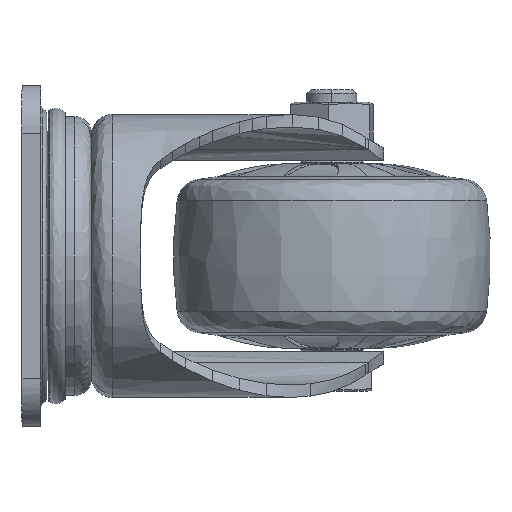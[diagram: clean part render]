
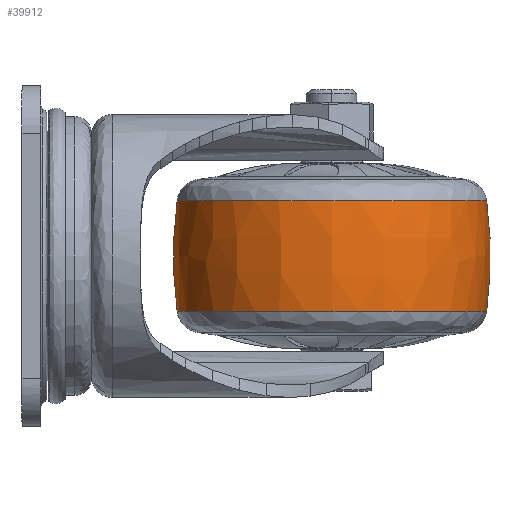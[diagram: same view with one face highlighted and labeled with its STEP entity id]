
A CAD part, left-side view. The second image highlights one B-rep face of the part: STEP entity #39912.
In plain terms, the highlighted free-form (B-spline) face has degree [3, 3] with [4, 4] control points.
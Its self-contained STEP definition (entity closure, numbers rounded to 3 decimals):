
#2724 = DIRECTION ( 'NONE',  ( 0., 0., 1. ) ) ;
#3313 = VERTEX_POINT ( 'NONE', #59676 ) ;
#4360 = ORIENTED_EDGE ( 'NONE', *, *, #34379, .F. ) ;
#4782 = CIRCLE ( 'NONE', #11309, 100. ) ;
#5583 = AXIS2_PLACEMENT_3D ( 'NONE', #80713, #19340, #24666 ) ;
#5904 = CARTESIAN_POINT ( 'NONE',  ( -37.429, -37.286, -13.279 ) ) ;
#9093 = CARTESIAN_POINT ( 'NONE',  ( 37., -111.714, -13.279 ) ) ;
#9339 = DIRECTION ( 'NONE',  ( -1., 0., 0. ) ) ;
#10994 = VERTEX_POINT ( 'NONE', #69249 ) ;
#11309 = AXIS2_PLACEMENT_3D ( 'NONE', #58387, #9339, #28124 ) ;
#12331 = VERTEX_POINT ( 'NONE', #9093 ) ;
#12422 = CARTESIAN_POINT ( 'NONE',  ( 37., -111.714, -13.279 ) ) ;
#15730 = CARTESIAN_POINT ( 'NONE',  ( 37., -37.286, 13.279 ) ) ;
#16943 = VERTEX_POINT ( 'NONE', #49257 ) ;
#18519 = CARTESIAN_POINT ( 'NONE',  ( -39.794, -112.897, -4.452 ) ) ;
#19340 = DIRECTION ( 'NONE',  ( 1., 0., 0. ) ) ;
#20145 =( BOUNDED_SURFACE ( )  B_SPLINE_SURFACE ( 3, 3, ( 
 ( #46799, #79084, #71711, #15730 ),
 ( #59467, #47601, #53328, #72521 ),
 ( #41467, #18519, #24259, #73320 ),
 ( #12422, #54523, #5904, #35750 ) ),
 .UNSPECIFIED., .F., .F., .F. ) 
 B_SPLINE_SURFACE_WITH_KNOTS ( ( 4, 4 ),
 ( 4, 4 ),
 ( 0., 1. ),
 ( 0., 1. ),
 .UNSPECIFIED. ) 
 GEOMETRIC_REPRESENTATION_ITEM ( )  RATIONAL_B_SPLINE_SURFACE ( (
 ( 1., 0.333, 0.333, 1.),
 ( 0.994, 0.331, 0.331, 0.994),
 ( 0.994, 0.331, 0.331, 0.994),
 ( 1., 0.333, 0.333, 1.) ) ) 
 REPRESENTATION_ITEM ( '' )  SURFACE ( )  );
#21485 = DIRECTION ( 'NONE',  ( 0., 1., 0. ) ) ;
#21615 = EDGE_CURVE ( 'NONE', #12331, #16943, #26790, .T. ) ;
#22613 = EDGE_CURVE ( 'NONE', #3313, #10994, #73175, .T. ) ;
#24259 = CARTESIAN_POINT ( 'NONE',  ( -39.794, -36.103, -4.452 ) ) ;
#24666 = DIRECTION ( 'NONE',  ( 0., 0.991, -0.133 ) ) ;
#24769 = CARTESIAN_POINT ( 'NONE',  ( 37., -74.5, -13.279 ) ) ;
#26790 = CIRCLE ( 'NONE', #33147, 37.214 ) ;
#28124 = DIRECTION ( 'NONE',  ( 0., -0.991, -0.133 ) ) ;
#28460 = EDGE_LOOP ( 'NONE', ( #73008, #44382, #4360, #67769 ) ) ;
#32158 = CARTESIAN_POINT ( 'NONE',  ( 37., -74.5, 13.279 ) ) ;
#33147 = AXIS2_PLACEMENT_3D ( 'NONE', #24769, #74235, #68517 ) ;
#34379 = EDGE_CURVE ( 'NONE', #16943, #3313, #40829, .T. ) ;
#35750 = CARTESIAN_POINT ( 'NONE',  ( 37., -37.286, -13.279 ) ) ;
#39912 = ADVANCED_FACE ( 'NONE', ( #53724 ), #20145, .F. ) ;
#40829 = CIRCLE ( 'NONE', #5583, 100. ) ;
#41467 = CARTESIAN_POINT ( 'NONE',  ( 37., -112.897, -4.452 ) ) ;
#44382 = ORIENTED_EDGE ( 'NONE', *, *, #22613, .F. ) ;
#46799 = CARTESIAN_POINT ( 'NONE',  ( 37., -111.714, 13.279 ) ) ;
#47601 = CARTESIAN_POINT ( 'NONE',  ( -39.794, -112.897, 4.452 ) ) ;
#49257 = CARTESIAN_POINT ( 'NONE',  ( 37., -37.286, -13.279 ) ) ;
#49650 = AXIS2_PLACEMENT_3D ( 'NONE', #32158, #2724, #21485 ) ;
#53328 = CARTESIAN_POINT ( 'NONE',  ( -39.794, -36.103, 4.452 ) ) ;
#53724 = FACE_OUTER_BOUND ( 'NONE', #28460, .T. ) ;
#54523 = CARTESIAN_POINT ( 'NONE',  ( -37.429, -111.714, -13.279 ) ) ;
#58387 = CARTESIAN_POINT ( 'NONE',  ( 37., -12.6, 0. ) ) ;
#59467 = CARTESIAN_POINT ( 'NONE',  ( 37., -112.897, 4.452 ) ) ;
#59676 = CARTESIAN_POINT ( 'NONE',  ( 37., -37.286, 13.279 ) ) ;
#67769 = ORIENTED_EDGE ( 'NONE', *, *, #21615, .F. ) ;
#68517 = DIRECTION ( 'NONE',  ( 0., -1., 0. ) ) ;
#69249 = CARTESIAN_POINT ( 'NONE',  ( 37., -111.714, 13.279 ) ) ;
#71711 = CARTESIAN_POINT ( 'NONE',  ( -37.429, -37.286, 13.279 ) ) ;
#72521 = CARTESIAN_POINT ( 'NONE',  ( 37., -36.103, 4.452 ) ) ;
#72633 = EDGE_CURVE ( 'NONE', #12331, #10994, #4782, .T. ) ;
#73008 = ORIENTED_EDGE ( 'NONE', *, *, #72633, .T. ) ;
#73175 = CIRCLE ( 'NONE', #49650, 37.214 ) ;
#73320 = CARTESIAN_POINT ( 'NONE',  ( 37., -36.103, -4.452 ) ) ;
#74235 = DIRECTION ( 'NONE',  ( 0., 0., -1. ) ) ;
#79084 = CARTESIAN_POINT ( 'NONE',  ( -37.429, -111.714, 13.279 ) ) ;
#80713 = CARTESIAN_POINT ( 'NONE',  ( 37., -136.4, 0. ) ) ;
